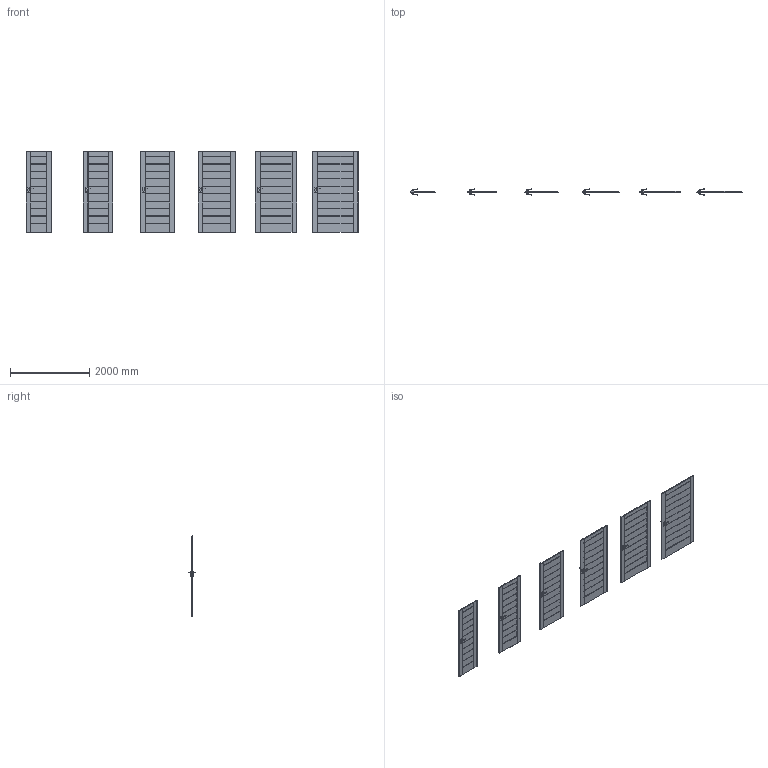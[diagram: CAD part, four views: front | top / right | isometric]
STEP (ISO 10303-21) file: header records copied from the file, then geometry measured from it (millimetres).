
FILE_DESCRIPTION(/* description */ (''),/* implementation_level */ '2;1');
FILE_NAME(/* name */ '049757_A_3-krzydło Verte Home model C_ polska norma _PN__ przylgowe..stp',/* time_stamp */ '2024-03-07T13:04:09+01:00',/* author */ (''),/* organization */ (''),/* preprocessor_version */ 'ST-DEVELOPER v16',/* originating_system */ 'SIEMENS PLM Software NX 11.0',/* authorisation */ '');
FILE_SCHEMA (('AUTOMOTIVE_DESIGN { 1 0 10303 214 3 1 1 1 }'));
Products named in the file (1): bkni60F8706Ayyud
Bounding box: 8394 x 153.27 x 2030.01 mm (x, y, z)
Volume: 234243061.6 mm3; surface area: 24611061.8 mm2
Topology: 32 solids, 32 shells, 1886 faces, 4926 edges, 2984 vertices
Faces by surface type: plane 874, cylinder 646, bspline 198, sphere 168
Entity records: 63877 total; most frequent: CARTESIAN_POINT 18775, ORIENTED_EDGE 9516, DIRECTION 9220, EDGE_CURVE 4758, AXIS2_PLACEMENT_3D 3193, VERTEX_POINT 2984, LINE 2834, VECTOR 2834
